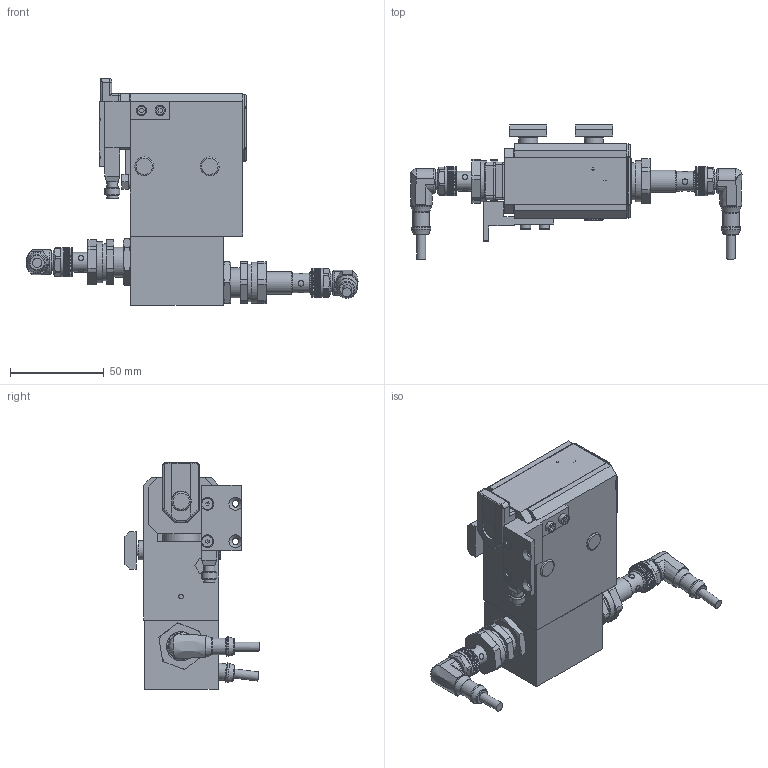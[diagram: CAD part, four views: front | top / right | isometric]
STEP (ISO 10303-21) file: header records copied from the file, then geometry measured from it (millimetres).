
FILE_DESCRIPTION(/* description */ (''),/* implementation_level */ '2;1');
FILE_NAME(/* name */ 'C:\Marketing\01_Versamove-SPU_STEP-Dateien-Homepage\Versamove plus\ASM-60_Induktiv.stp',/* time_stamp */ '2016-12-22T15:26:02+01:00',/* author */ ('herbert.engels'),/* organization */ (''),/* preprocessor_version */ 'ST-DEVELOPER v15.6',/* originating_system */ 'Autodesk Inventor 2015',/* authorisation */ '');
FILE_SCHEMA (('CONFIG_CONTROL_DESIGN'));
Length unit declared in the file: millimetre
Products named in the file (1): ASM-60_Induktiv
Bounding box: 177.24 x 71.6 x 121 mm (x, y, z)
Volume: 298586 mm3; surface area: 58490 mm2
Topology: 1 solids, 1 shells, 748 faces, 1961 edges, 1270 vertices
Faces by surface type: plane 500, cylinder 149, cone 54, torus 17, sphere 16, bspline 12
Full cylindrical faces by diameter (mm): 2 x2, 2.459 x2, 2.5 x3, 3 x10, 3.4 x4, 4.9 x2, 5 x1, 5.5 x2, 6 x6, 7.8 x2, 8 x1, 9 x2, 9.8 x2, 10 x6, 10.4 x2, 10.5 x2, 10.6 x1, 12 x2, 15.55 x2, 16 x2, 20 x3, 21.9 x2
Entity records: 24238 total; most frequent: CARTESIAN_POINT 6207, ORIENTED_EDGE 3634, DIRECTION 3253, EDGE_CURVE 1817, VERTEX_POINT 1240, AXIS2_PLACEMENT_3D 1087, LINE 1079, VECTOR 1079
